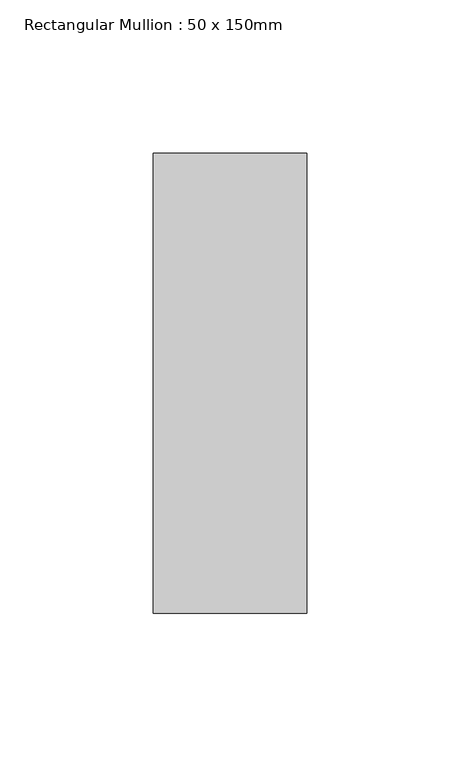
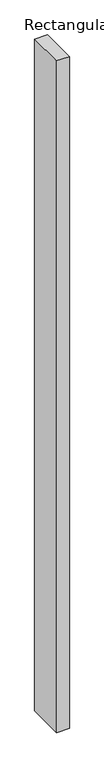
"""IFC4 building model written with IfcOpenShell, lengths in millimetres: member geometry, Rectangular Mullion : 50 x 150mm."""

from ifc_helpers import new_model, si_unit, frame, origin, place, context, project, spatial, polyline, outline, extrude, source, transform, mapped, element, save


def rectangular_mullion_50_x_150mm_32aaa733(model_context):
    return source(origin(), model_context, "Body", "SweptSolid", [
        extrude(outline(polyline([(0.0, 75.0), (0.0, -75.0), (-50.0, -75.0), (-50.0, 75.0), (0.0, 75.0)])), frame((0.0, 0.0, -2800.0), z_axis=(0.0, 0.0, 1.0), x_axis=(1.0, 0.0, 0.0)), (0.0, 0.0, 1.0), 2800.0),
    ])


if __name__ == "__main__":
    model = new_model("IFC4")
    model_context = context("Model", 3, world=origin())
    ifc_project = project(units=[si_unit("LENGTHUNIT", "METRE", prefix="MILLI")], contexts=[model_context])
    site = spatial("IfcSite", under=ifc_project)
    building = spatial("IfcBuilding", under=site)
    placement = place(None, origin())
    rectangular_mullion_50_x_150mm_shape = rectangular_mullion_50_x_150mm_32aaa733(model_context)
    element("IfcMember", 1, ObjectType="Rectangular Mullion : 50 x 150mm", at=placement, inside=building, context=model_context, shape_type="MappedRepresentation", body=[
        mapped(rectangular_mullion_50_x_150mm_shape, transform((0.0, 0.0, 0.0), x_axis=(1.0, 0.0, 0.0), y_axis=(0.0, 1.0, 0.0), z_axis=(0.0, 0.0, 1.0))),
    ])
    save(model, "model.ifc")
